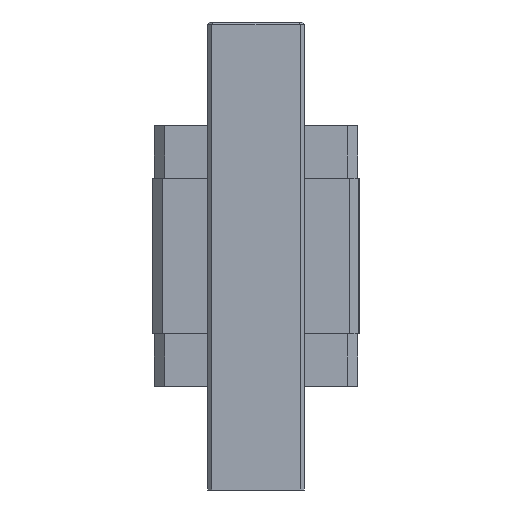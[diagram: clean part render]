
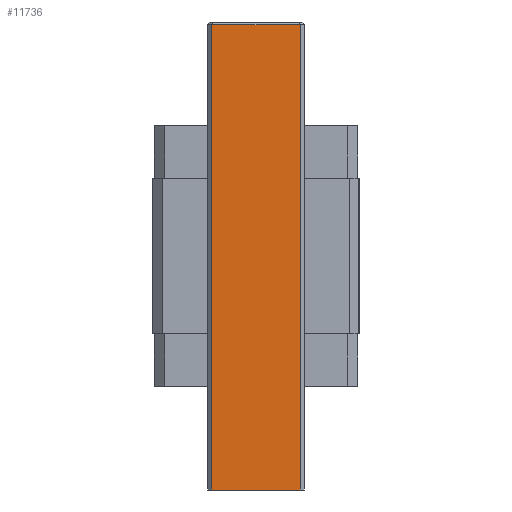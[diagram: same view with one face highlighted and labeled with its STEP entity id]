
A CAD part, front view. The second image highlights one B-rep face of the part: STEP entity #11736.
In plain terms, the highlighted planar face has unit normal (0, -1, 0).
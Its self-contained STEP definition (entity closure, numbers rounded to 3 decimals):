
#10697=DIRECTION('',(1.,0.,0.));
#10698=VECTOR('',#10697,25.6);
#10699=CARTESIAN_POINT('',(-12.8,-16.5,-67.65));
#10700=LINE('',#10699,#10698);
#10970=DIRECTION('',(1.,0.,0.));
#10971=VECTOR('',#10970,25.6);
#10972=CARTESIAN_POINT('',(-12.8,-16.5,66.784));
#10973=LINE('',#10972,#10971);
#10974=DIRECTION('',(0.,0.,1.));
#10975=VECTOR('',#10974,134.434);
#10976=CARTESIAN_POINT('',(-12.8,-16.5,-67.65));
#10977=LINE('',#10976,#10975);
#10982=DIRECTION('',(0.,0.,1.));
#10983=VECTOR('',#10982,134.434);
#10984=CARTESIAN_POINT('',(12.8,-16.5,-67.65));
#10985=LINE('',#10984,#10983);
#11168=CARTESIAN_POINT('',(-12.8,-16.5,-67.65));
#11169=VERTEX_POINT('',#11168);
#11170=CARTESIAN_POINT('',(12.8,-16.5,-67.65));
#11171=VERTEX_POINT('',#11170);
#11232=CARTESIAN_POINT('',(12.8,-16.5,66.784));
#11233=VERTEX_POINT('',#11232);
#11236=CARTESIAN_POINT('',(-12.8,-16.5,66.784));
#11237=VERTEX_POINT('',#11236);
#11724=CARTESIAN_POINT('',(-12.8,-16.5,-67.65));
#11725=DIRECTION('',(0.,-1.,0.));
#11726=DIRECTION('',(1.,0.,0.));
#11727=AXIS2_PLACEMENT_3D('',#11724,#11725,#11726);
#11728=PLANE('',#11727);
#11729=ORIENTED_EDGE('',*,*,#11715,.T.);
#11731=ORIENTED_EDGE('',*,*,#11730,.F.);
#11732=ORIENTED_EDGE('',*,*,#11317,.F.);
#11733=ORIENTED_EDGE('',*,*,#11690,.T.);
#11734=EDGE_LOOP('',(#11729,#11731,#11732,#11733));
#11735=FACE_OUTER_BOUND('',#11734,.F.);
#11317=EDGE_CURVE('',#11169,#11171,#10700,.T.);
#11690=EDGE_CURVE('',#11169,#11237,#10977,.T.);
#11715=EDGE_CURVE('',#11237,#11233,#10973,.T.);
#11730=EDGE_CURVE('',#11171,#11233,#10985,.T.);
#11736=ADVANCED_FACE('',(#11735),#11728,.T.);
